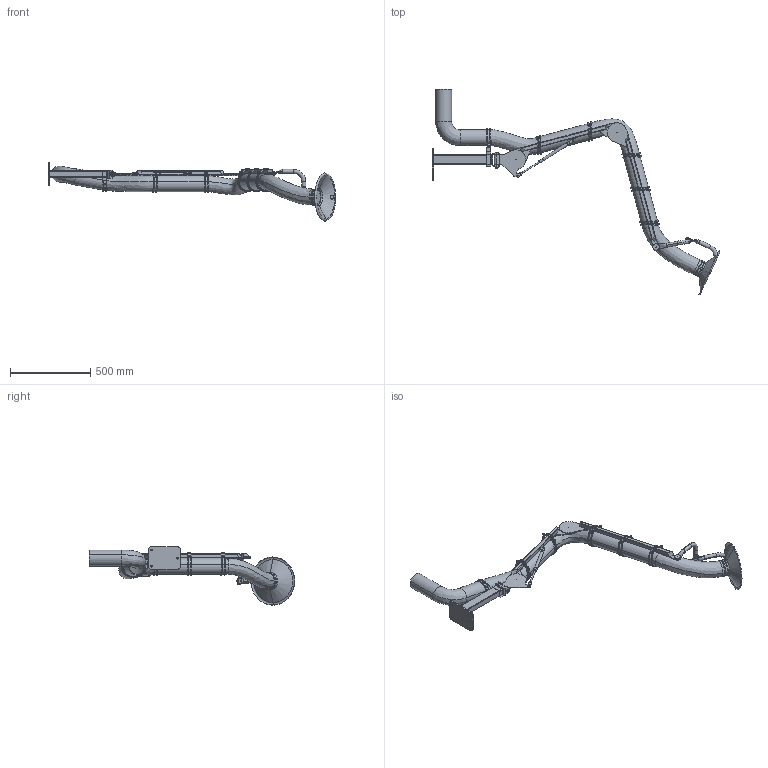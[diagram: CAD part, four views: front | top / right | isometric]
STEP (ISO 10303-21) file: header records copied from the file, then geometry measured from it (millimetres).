
FILE_DESCRIPTION((''),'2;1');
FILE_NAME('PSR_2000-100_EXC','2022-10-04T11:29:37',('Tomas Bellgran'),(''),'CREO PARAMETRIC BY PTC INC, 2018260','CREO PARAMETRIC BY PTC INC, 2018260','');
FILE_SCHEMA(('AUTOMOTIVE_DESIGN { 1 0 10303 214 1 1 1 1 }'));
Length unit declared in the file: millimetre
Products named in the file (32): 141554; 141580; 141581; 122701; 141512; 141556; 141582; 141587; 141522; 121391; 131150; 139380; 131151; 131170; 144356; 141589; 134343_AF0; G_P136_WELD-REF; 141590; 122717_LIGHT; 120127_COMPL_LIGHT; 130315; ROD_STAB_8-160-REF; 131095; 130320_AF1; 131145; 141630; 124460; 107521-11; 121000_LIGHT; 107521-20; PSR_2000-100_EXC
Assembly tree (45 placements, depth 3):
  PSR_2000-100_EXC
    141512
      141554
      141580
      141581
      122701
    141522
      141556
      141582
      141587
    121391  x4
    131150
    131170
      139380
      131151
    144356  x2
    141590
      141589
      134343_AF0
      G_P136_WELD-REF
    122717_LIGHT
    120127_COMPL_LIGHT
    130320_AF1
      130315
      ROD_STAB_8-160-REF
      131095  x2
    131145  x2
    141630
    124460  x5
    107521-11  x5
    121000_LIGHT
    107521-20
Bounding box: 1785.47 x 1276.27 x 362.95 mm (x, y, z)
Volume: 22298837.3 mm3; surface area: 1649541.2 mm2
Topology: 40 solids, 40 shells, 996 faces, 2403 edges, 1492 vertices
Faces by surface type: plane 380, cylinder 299, bspline 218, cone 42, torus 32, extrusion 23, sphere 2
Entity records: 38174 total; most frequent: CARTESIAN_POINT 14484, DIRECTION 2933, ORIENTED_EDGE 2830, PRESENTATION_STYLE_ASSIGNMENT 1970, STYLED_ITEM 1943, CURVE_STYLE 1430, EDGE_CURVE 1415, AXIS2_PLACEMENT_3D 1127
